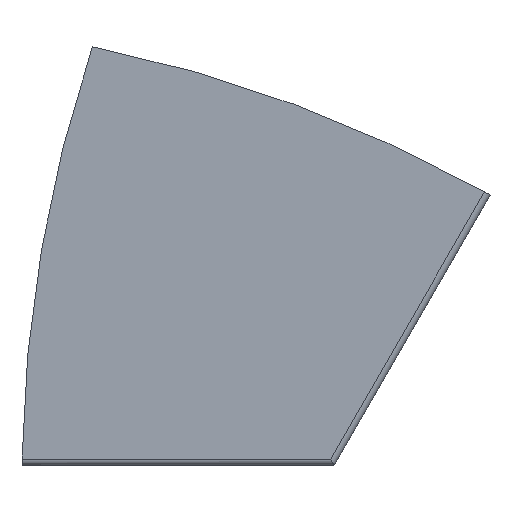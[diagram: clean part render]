
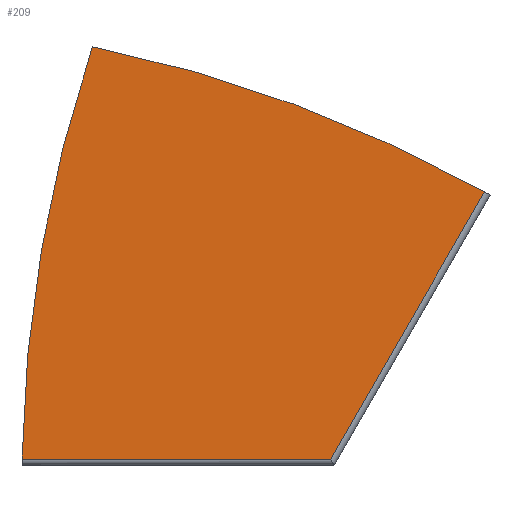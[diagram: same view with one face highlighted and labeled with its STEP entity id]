
A CAD part, top view. The second image highlights one B-rep face of the part: STEP entity #209.
In plain terms, the highlighted planar face has unit normal (0, 0, 1).
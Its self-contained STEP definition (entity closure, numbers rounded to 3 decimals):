
#54 = VERTEX_POINT('',#55);
#55 = CARTESIAN_POINT('',(8.884,14.057,1.));
#61 = EDGE_CURVE('',#54,#62,#64,.T.);
#62 = VERTEX_POINT('',#63);
#63 = CARTESIAN_POINT('',(6.606,0.7,1.));
#64 = CIRCLE('',#65,44.4);
#65 = AXIS2_PLACEMENT_3D('',#66,#67,#68);
#66 = CARTESIAN_POINT('',(51.,0.,1.));
#67 = DIRECTION('',(0.,0.,1.));
#68 = DIRECTION('',(1.,0.,0.));
#157 = EDGE_CURVE('',#62,#158,#160,.T.);
#158 = VERTEX_POINT('',#159);
#159 = CARTESIAN_POINT('',(16.596,0.7,1.));
#160 = LINE('',#161,#162);
#161 = CARTESIAN_POINT('',(6.603,0.7,1.));
#162 = VECTOR('',#163,1.);
#163 = DIRECTION('',(1.,0.,0.));
#209 = ADVANCED_FACE('',(#210),#229,.T.);
#210 = FACE_BOUND('',#211,.T.);
#211 = EDGE_LOOP('',(#212,#213,#214,#222));
#212 = ORIENTED_EDGE('',*,*,#61,.T.);
#213 = ORIENTED_EDGE('',*,*,#157,.T.);
#214 = ORIENTED_EDGE('',*,*,#215,.T.);
#215 = EDGE_CURVE('',#158,#216,#218,.T.);
#216 = VERTEX_POINT('',#217);
#217 = CARTESIAN_POINT('',(21.591,9.352,1.));
#218 = LINE('',#219,#220);
#219 = CARTESIAN_POINT('',(16.538,0.6,1.));
#220 = VECTOR('',#221,1.);
#221 = DIRECTION('',(0.5,0.866,0.));
#222 = ORIENTED_EDGE('',*,*,#223,.T.);
#223 = EDGE_CURVE('',#216,#54,#224,.T.);
#224 = CIRCLE('',#225,44.4);
#225 = AXIS2_PLACEMENT_3D('',#226,#227,#228);
#226 = CARTESIAN_POINT('',(0.,-29.445,1.));
#227 = DIRECTION('',(0.,0.,1.));
#228 = DIRECTION('',(1.,0.,0.));
#229 = PLANE('',#230);
#230 = AXIS2_PLACEMENT_3D('',#231,#232,#233);
#231 = CARTESIAN_POINT('',(13.13,6.702,1.));
#232 = DIRECTION('',(0.,0.,1.));
#233 = DIRECTION('',(1.,0.,0.));
